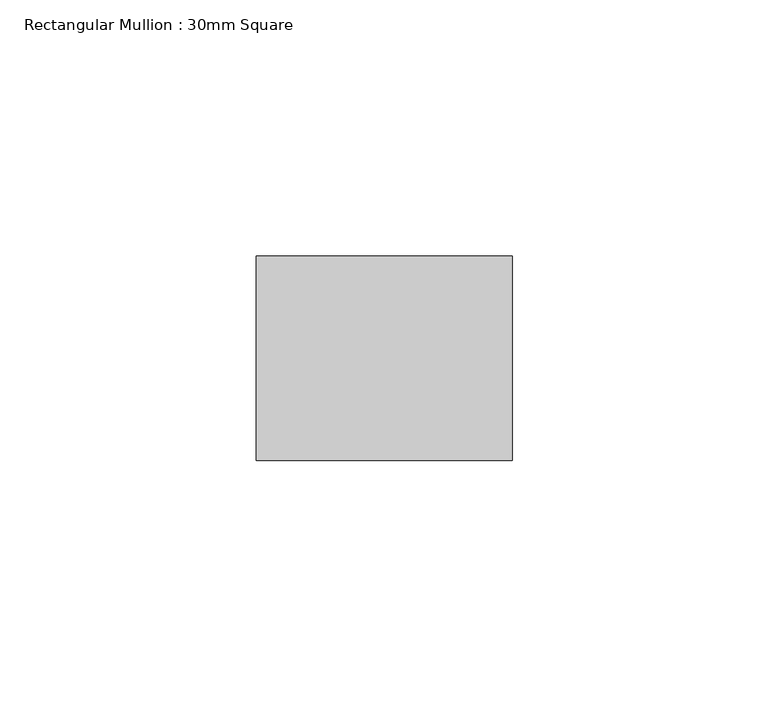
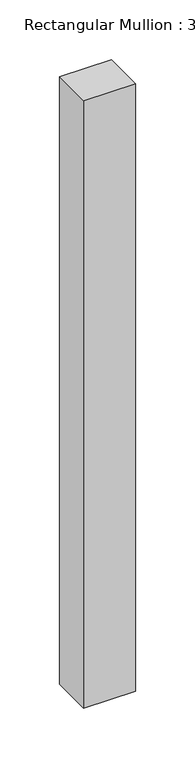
"""IFC4 building model written with IfcOpenShell, lengths in millimetres: member geometry, Rectangular Mullion : 30mm Square."""

from ifc_helpers import new_model, si_unit, frame, origin, place, context, project, spatial, polyline, outline, extrude, source, transform, mapped, element, save


def rectangular_mullion_30mm_square_d8b3822f(model_context):
    return source(origin(), model_context, "Body", "SweptSolid", [
        extrude(outline(polyline([(25.0, 20.0), (25.0, -20.0), (-25.0, -20.0), (-25.0, 20.0), (25.0, 20.0)])), frame((0.0, 0.0, -620.0), z_axis=(0.0, 0.0, 1.0), x_axis=(1.0, 0.0, 0.0)), (0.0, 0.0, 1.0), 620.0),
    ])


if __name__ == "__main__":
    model = new_model("IFC4")
    model_context = context("Model", 3, world=origin())
    ifc_project = project(units=[si_unit("LENGTHUNIT", "METRE", prefix="MILLI")], contexts=[model_context])
    site = spatial("IfcSite", under=ifc_project)
    building = spatial("IfcBuilding", under=site)
    placement = place(None, origin())
    rectangular_mullion_30mm_square_shape = rectangular_mullion_30mm_square_d8b3822f(model_context)
    element("IfcMember", 1, ObjectType="Rectangular Mullion : 30mm Square", at=placement, inside=building, context=model_context, shape_type="MappedRepresentation", body=[
        mapped(rectangular_mullion_30mm_square_shape, transform((0.0, 0.0, 0.0), x_axis=(1.0, 0.0, 0.0), y_axis=(0.0, 1.0, 0.0), z_axis=(0.0, 0.0, 1.0))),
    ])
    save(model, "model.ifc")
